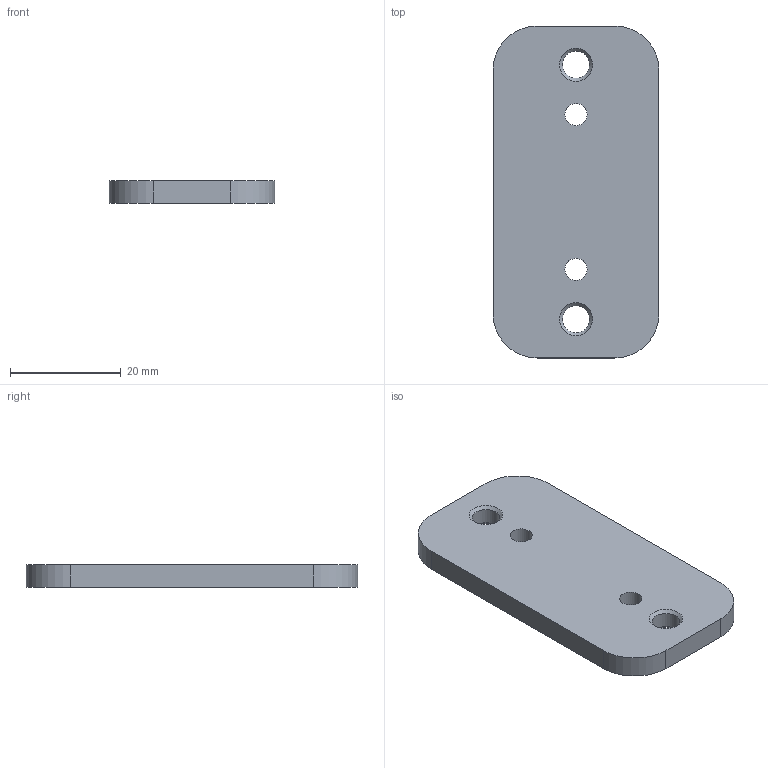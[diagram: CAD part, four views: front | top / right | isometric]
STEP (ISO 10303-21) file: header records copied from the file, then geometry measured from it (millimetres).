
FILE_DESCRIPTION(/* description */ ('STEP AP214'),/* implementation_level */ '2;1');
FILE_NAME(/* name */ 'Stainless Steel-Plate GN 7247.4-NI-60-MT',/* time_stamp */ '2023-01-25T14:09:45+01:00',/* author */ ('License CC BY-ND 4.0'),/* organization */ ('CADENAS'),/* preprocessor_version */ 'ST-DEVELOPER v18.102',/* originating_system */ 'PARTsolutions',/* authorisation */ ' ');
FILE_SCHEMA (('AUTOMOTIVE_DESIGN {1 0 10303 214 3 1 1}'));
Length unit declared in the file: millimetre
Products named in the file (1): Stainless Steel-Plate GN 7247.4-NI-60-MT
Bounding box: 30 x 60 x 4 mm (x, y, z)
Volume: 6718.1 mm3; surface area: 4235 mm2
Topology: 1 solids, 1 shells, 18 faces, 44 edges, 28 vertices
Faces by surface type: cylinder 8, plane 6, cone 4
Full cylindrical faces by diameter (mm): 4 x2, 4.917 x2
Entity records: 542 total; most frequent: DIRECTION 94, CARTESIAN_POINT 83, ORIENTED_EDGE 72, AXIS2_PLACEMENT_3D 39, EDGE_CURVE 36, EDGE_LOOP 34, FACE_BOUND 34, VERTEX_POINT 28
